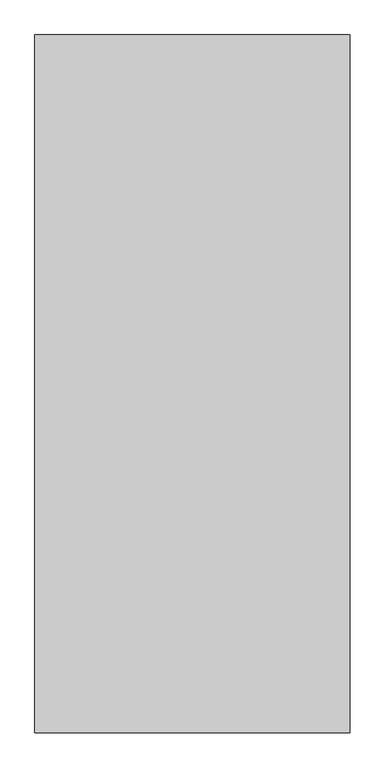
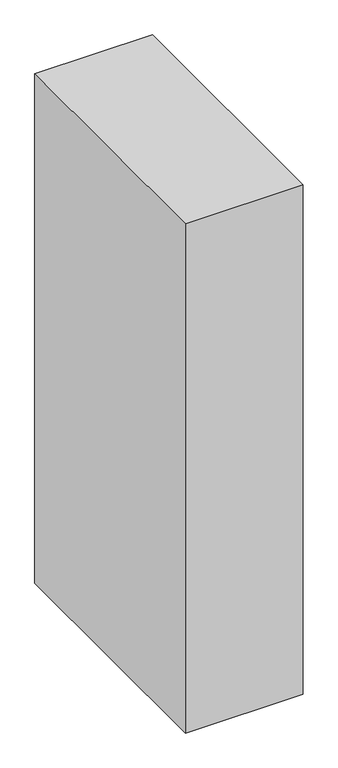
"""IFC4 building model written with IfcOpenShell, lengths in millimetres: column geometry, M_混凝土-矩形-柱 : RC柱70*155."""

from ifc_helpers import new_model, si_unit, frame, origin, place, context, project, spatial, polyline, outline, extrude, source, transform, mapped, element, save


def column_531a2177(model_context):
    return source(origin(), model_context, "Body", "SweptSolid", [
        extrude(outline(polyline([(350.0, 775.0), (350.0, -775.0), (-350.0, -775.0), (-350.0, 775.0), (350.0, 775.0)])), frame((0.0, 0.0, 8000.0), z_axis=(0.0, 0.0, 1.0), x_axis=(1.0, 0.0, 0.0)), (0.0, 0.0, 1.0), 3200.0),
    ])


if __name__ == "__main__":
    model = new_model("IFC4")
    model_context = context("Model", 3, world=origin())
    ifc_project = project(units=[si_unit("LENGTHUNIT", "METRE", prefix="MILLI")], contexts=[model_context])
    site = spatial("IfcSite", under=ifc_project)
    building = spatial("IfcBuilding", under=site)
    placement = place(None, origin())
    column_shape = column_531a2177(model_context)
    element("IfcColumn", 1, ObjectType="M_混凝土-矩形-柱 : RC柱70*155", at=placement, inside=building, context=model_context, shape_type="MappedRepresentation", body=[
        mapped(column_shape, transform((0.0, 0.0, 0.0), x_axis=(1.0, 0.0, 0.0), y_axis=(0.0, 1.0, 0.0), z_axis=(0.0, 0.0, 1.0))),
    ])
    save(model, "model.ifc")
